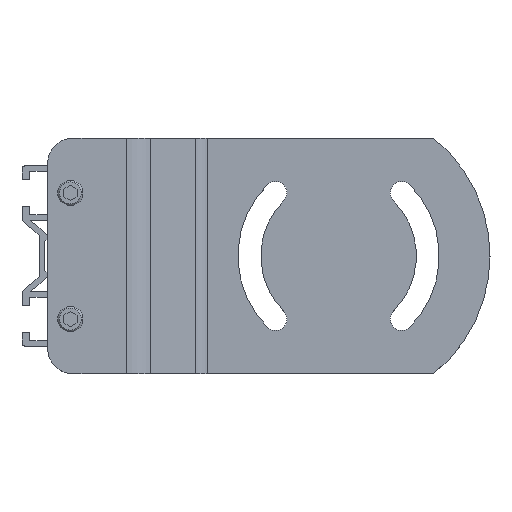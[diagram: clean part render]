
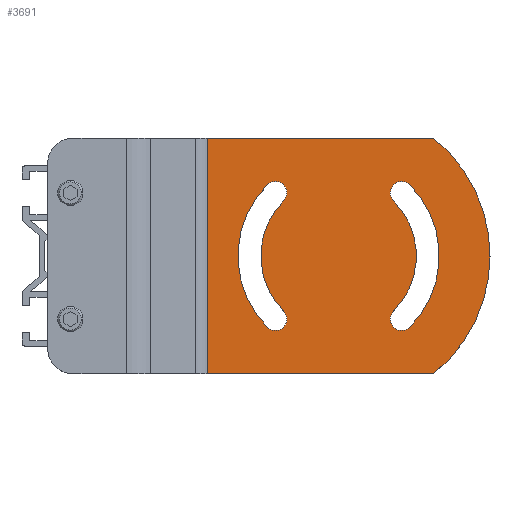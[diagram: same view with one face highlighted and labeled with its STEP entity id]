
A CAD part, left-side view. The second image highlights one B-rep face of the part: STEP entity #3691.
In plain terms, the highlighted planar face has unit normal (-1, 0, 0) as drawn and (0, 0, -1) by its records, which use the part's own axes.
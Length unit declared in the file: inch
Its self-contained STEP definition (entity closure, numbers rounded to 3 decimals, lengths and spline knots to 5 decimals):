
#3122=DIRECTION('',(0.,1.,0.));
#3123=VECTOR('',#3122,3.36221);
#3124=CARTESIAN_POINT('',(-3.5,0.83579,-0.25));
#3125=LINE('',#3124,#3123);
#3130=CARTESIAN_POINT('',(-1.75,2.25,-0.25));
#3131=DIRECTION('',(0.,0.,1.));
#3132=DIRECTION('',(0.,-1.,0.));
#3133=AXIS2_PLACEMENT_3D('',#3130,#3131,#3132);
#3135=DIRECTION('',(0.,1.,0.));
#3136=VECTOR('',#3135,3.36221);
#3137=CARTESIAN_POINT('',(0.,0.83579,-0.25));
#3138=LINE('',#3137,#3136);
#3139=CARTESIAN_POINT('',(-1.75,2.25,-0.25));
#3140=DIRECTION('',(0.,0.,1.));
#3141=DIRECTION('',(-0.778,-0.629,0.));
#3142=AXIS2_PLACEMENT_3D('',#3139,#3140,#3141);
#3144=CARTESIAN_POINT('',(-1.75,2.25,-0.25));
#3145=DIRECTION('',(0.,0.,1.));
#3146=DIRECTION('',(-0.707,-0.707,0.));
#3147=AXIS2_PLACEMENT_3D('',#3144,#3145,#3146);
#3149=CARTESIAN_POINT('',(-0.81238,1.31238,-0.25));
#3150=DIRECTION('',(0.,0.,-1.));
#3151=DIRECTION('',(-0.707,0.707,0.));
#3152=AXIS2_PLACEMENT_3D('',#3149,#3150,#3151);
#3154=CARTESIAN_POINT('',(-1.75,2.25,-0.25));
#3155=DIRECTION('',(0.,0.,-1.));
#3156=DIRECTION('',(0.707,-0.707,0.));
#3157=AXIS2_PLACEMENT_3D('',#3154,#3155,#3156);
#3159=CARTESIAN_POINT('',(-2.68762,1.31238,-0.25));
#3160=DIRECTION('',(0.,0.,-1.));
#3161=DIRECTION('',(-0.707,-0.707,0.));
#3162=AXIS2_PLACEMENT_3D('',#3159,#3160,#3161);
#3164=CARTESIAN_POINT('',(-1.75,2.25,-0.25));
#3165=DIRECTION('',(0.,0.,1.));
#3166=DIRECTION('',(0.707,0.707,0.));
#3167=AXIS2_PLACEMENT_3D('',#3164,#3165,#3166);
#3169=CARTESIAN_POINT('',(-2.68762,3.18762,-0.25));
#3170=DIRECTION('',(0.,0.,-1.));
#3171=DIRECTION('',(0.707,-0.707,0.));
#3172=AXIS2_PLACEMENT_3D('',#3169,#3170,#3171);
#3174=CARTESIAN_POINT('',(-1.75,2.25,-0.25));
#3175=DIRECTION('',(0.,0.,-1.));
#3176=DIRECTION('',(-0.707,0.707,0.));
#3177=AXIS2_PLACEMENT_3D('',#3174,#3175,#3176);
#3179=CARTESIAN_POINT('',(-0.81238,3.18762,-0.25));
#3180=DIRECTION('',(0.,0.,-1.));
#3181=DIRECTION('',(0.707,0.707,0.));
#3182=AXIS2_PLACEMENT_3D('',#3179,#3180,#3181);
#3188=DIRECTION('',(1.,0.,0.));
#3189=VECTOR('',#3188,3.5);
#3190=CARTESIAN_POINT('',(-3.5,4.198,-0.25));
#3191=LINE('',#3190,#3189);
#3438=CARTESIAN_POINT('',(0.,0.83579,-0.25));
#3439=VERTEX_POINT('',#3438);
#3440=CARTESIAN_POINT('',(-1.75,0.,-0.25));
#3441=VERTEX_POINT('',#3440);
#3442=CARTESIAN_POINT('',(0.,4.198,-0.25));
#3443=VERTEX_POINT('',#3442);
#3450=CARTESIAN_POINT('',(-3.5,4.198,-0.25));
#3451=VERTEX_POINT('',#3450);
#3454=CARTESIAN_POINT('',(-3.5,0.83579,-0.25));
#3455=VERTEX_POINT('',#3454);
#3456=CARTESIAN_POINT('',(-2.56742,1.43258,-0.25));
#3457=CARTESIAN_POINT('',(-0.93258,1.43258,-0.25));
#3458=VERTEX_POINT('',#3456);
#3459=VERTEX_POINT('',#3457);
#3460=CARTESIAN_POINT('',(-0.69217,1.19217,-0.25));
#3461=VERTEX_POINT('',#3460);
#3462=CARTESIAN_POINT('',(-2.80783,1.19217,-0.25));
#3463=VERTEX_POINT('',#3462);
#3464=CARTESIAN_POINT('',(-0.93258,3.06742,-0.25));
#3465=CARTESIAN_POINT('',(-2.56742,3.06742,-0.25));
#3466=VERTEX_POINT('',#3464);
#3467=VERTEX_POINT('',#3465);
#3468=CARTESIAN_POINT('',(-2.80783,3.30783,-0.25));
#3469=VERTEX_POINT('',#3468);
#3470=CARTESIAN_POINT('',(-0.69217,3.30783,-0.25));
#3471=VERTEX_POINT('',#3470);
#3658=CARTESIAN_POINT('',(0.,4.198,-0.25));
#3659=DIRECTION('',(0.,0.,1.));
#3660=DIRECTION('',(0.,-1.,0.));
#3661=AXIS2_PLACEMENT_3D('',#3658,#3659,#3660);
#3662=PLANE('',#3661);
#3663=ORIENTED_EDGE('',*,*,#3566,.T.);
#3664=ORIENTED_EDGE('',*,*,#3582,.T.);
#3666=ORIENTED_EDGE('',*,*,#3665,.F.);
#3667=ORIENTED_EDGE('',*,*,#3638,.F.);
#3668=ORIENTED_EDGE('',*,*,#3651,.T.);
#3669=EDGE_LOOP('',(#3663,#3664,#3666,#3667,#3668));
#3670=FACE_OUTER_BOUND('',#3669,.F.);
#3672=ORIENTED_EDGE('',*,*,#3671,.T.);
#3674=ORIENTED_EDGE('',*,*,#3673,.T.);
#3676=ORIENTED_EDGE('',*,*,#3675,.T.);
#3678=ORIENTED_EDGE('',*,*,#3677,.T.);
#3679=EDGE_LOOP('',(#3672,#3674,#3676,#3678));
#3680=FACE_BOUND('',#3679,.F.);
#3682=ORIENTED_EDGE('',*,*,#3681,.T.);
#3684=ORIENTED_EDGE('',*,*,#3683,.T.);
#3686=ORIENTED_EDGE('',*,*,#3685,.T.);
#3688=ORIENTED_EDGE('',*,*,#3687,.T.);
#3689=EDGE_LOOP('',(#3682,#3684,#3686,#3688));
#3690=FACE_BOUND('',#3689,.F.);
#3134=CIRCLE('',#3133,2.25);
#3143=CIRCLE('',#3142,2.25);
#3148=CIRCLE('',#3147,1.156);
#3153=CIRCLE('',#3152,0.17);
#3158=CIRCLE('',#3157,1.496);
#3163=CIRCLE('',#3162,0.17);
#3168=CIRCLE('',#3167,1.156);
#3173=CIRCLE('',#3172,0.17);
#3178=CIRCLE('',#3177,1.496);
#3183=CIRCLE('',#3182,0.17);
#3566=EDGE_CURVE('',#3441,#3439,#3134,.T.);
#3582=EDGE_CURVE('',#3439,#3443,#3138,.T.);
#3638=EDGE_CURVE('',#3455,#3451,#3125,.T.);
#3651=EDGE_CURVE('',#3455,#3441,#3143,.T.);
#3665=EDGE_CURVE('',#3451,#3443,#3191,.T.);
#3671=EDGE_CURVE('',#3458,#3459,#3148,.T.);
#3673=EDGE_CURVE('',#3459,#3461,#3153,.T.);
#3675=EDGE_CURVE('',#3461,#3463,#3158,.T.);
#3677=EDGE_CURVE('',#3463,#3458,#3163,.T.);
#3681=EDGE_CURVE('',#3466,#3467,#3168,.T.);
#3683=EDGE_CURVE('',#3467,#3469,#3173,.T.);
#3685=EDGE_CURVE('',#3469,#3471,#3178,.T.);
#3687=EDGE_CURVE('',#3471,#3466,#3183,.T.);
#3691=ADVANCED_FACE('',(#3670,#3680,#3690),#3662,.F.);
